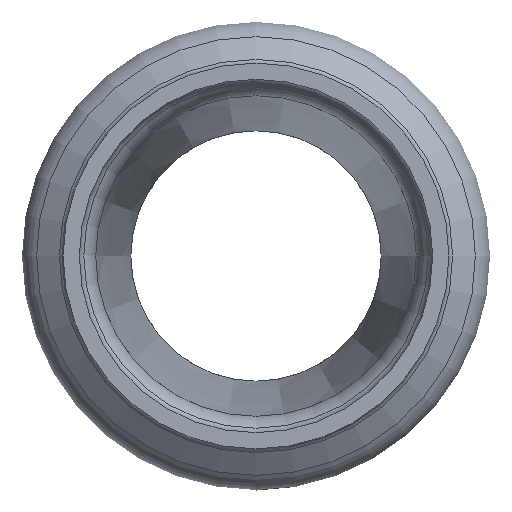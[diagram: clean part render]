
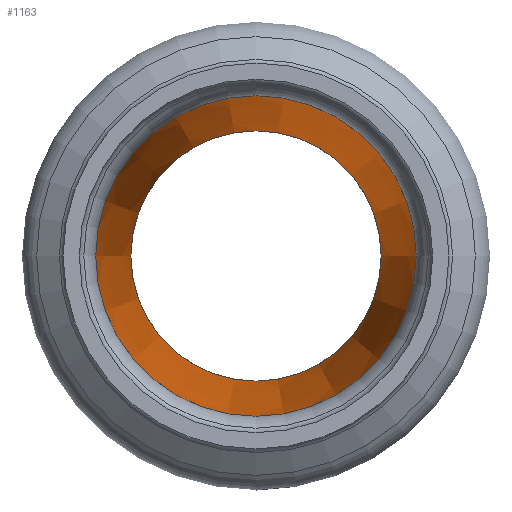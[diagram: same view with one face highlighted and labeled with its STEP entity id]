
A CAD part, left-side view. The second image highlights one B-rep face of the part: STEP entity #1163.
In plain terms, the highlighted conical face has half-angle 5.039 degrees and reference radius 24.378 mm.
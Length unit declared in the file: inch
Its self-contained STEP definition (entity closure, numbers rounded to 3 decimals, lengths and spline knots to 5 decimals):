
#76=LINE('',#2154,#98);
#98=VECTOR('',#1741,0.95975);
#112=CONICAL_SURFACE('',#1349,0.95975,0.088);
#149=FACE_OUTER_BOUND('',#198,.T.);
#198=EDGE_LOOP('',(#951,#952,#953,#954,#955,#956,#957,#958));
#327=CIRCLE('',#1345,0.84184);
#328=CIRCLE('',#1346,0.84184);
#329=CIRCLE('',#1347,0.84184);
#331=CIRCLE('',#1350,1.07766);
#332=CIRCLE('',#1351,1.07766);
#333=CIRCLE('',#1352,1.07766);
#470=VERTEX_POINT('',#2145);
#471=VERTEX_POINT('',#2146);
#472=VERTEX_POINT('',#2148);
#473=VERTEX_POINT('',#2153);
#474=VERTEX_POINT('',#2155);
#475=VERTEX_POINT('',#2157);
#638=EDGE_CURVE('',#470,#471,#327,.T.);
#639=EDGE_CURVE('',#472,#470,#328,.T.);
#640=EDGE_CURVE('',#471,#472,#329,.T.);
#642=EDGE_CURVE('',#472,#473,#76,.T.);
#643=EDGE_CURVE('',#474,#473,#331,.T.);
#644=EDGE_CURVE('',#475,#474,#332,.T.);
#645=EDGE_CURVE('',#473,#475,#333,.T.);
#951=ORIENTED_EDGE('',*,*,#638,.T.);
#952=ORIENTED_EDGE('',*,*,#640,.T.);
#953=ORIENTED_EDGE('',*,*,#642,.T.);
#954=ORIENTED_EDGE('',*,*,#643,.F.);
#955=ORIENTED_EDGE('',*,*,#644,.F.);
#956=ORIENTED_EDGE('',*,*,#645,.F.);
#957=ORIENTED_EDGE('',*,*,#642,.F.);
#958=ORIENTED_EDGE('',*,*,#639,.T.);
#1163=ADVANCED_FACE('',(#149),#112,.F.);
#1345=AXIS2_PLACEMENT_3D('',#2147,#1731,#1732);
#1346=AXIS2_PLACEMENT_3D('',#2149,#1733,#1734);
#1347=AXIS2_PLACEMENT_3D('',#2150,#1735,#1736);
#1349=AXIS2_PLACEMENT_3D('',#2152,#1739,#1740);
#1350=AXIS2_PLACEMENT_3D('',#2156,#1742,#1743);
#1351=AXIS2_PLACEMENT_3D('',#2158,#1744,#1745);
#1352=AXIS2_PLACEMENT_3D('',#2159,#1746,#1747);
#1731=DIRECTION('center_axis',(1.,0.,0.));
#1732=DIRECTION('ref_axis',(0.,1.,0.));
#1733=DIRECTION('center_axis',(1.,0.,0.));
#1734=DIRECTION('ref_axis',(0.,1.,0.));
#1735=DIRECTION('center_axis',(1.,0.,0.));
#1736=DIRECTION('ref_axis',(0.,1.,0.));
#1739=DIRECTION('center_axis',(-1.,0.,0.));
#1740=DIRECTION('ref_axis',(0.,1.,0.));
#1741=DIRECTION('',(-0.996,-0.088,0.));
#1742=DIRECTION('center_axis',(1.,0.,0.));
#1743=DIRECTION('ref_axis',(0.,1.,0.));
#1744=DIRECTION('center_axis',(1.,0.,0.));
#1745=DIRECTION('ref_axis',(0.,1.,0.));
#1746=DIRECTION('center_axis',(1.,0.,0.));
#1747=DIRECTION('ref_axis',(0.,1.,0.));
#2145=CARTESIAN_POINT('',(1.3372,0.84184,0.));
#2146=CARTESIAN_POINT('',(1.3372,0.,0.84184));
#2147=CARTESIAN_POINT('Origin',(1.3372,0.,0.));
#2148=CARTESIAN_POINT('',(1.3372,-0.84184,0.));
#2149=CARTESIAN_POINT('Origin',(1.3372,0.,0.));
#2150=CARTESIAN_POINT('Origin',(1.3372,0.,0.));
#2152=CARTESIAN_POINT('Origin',(0.,0.,0.));
#2153=CARTESIAN_POINT('',(-1.3372,-1.07766,0.));
#2154=CARTESIAN_POINT('',(0.,-0.95975,0.));
#2155=CARTESIAN_POINT('',(-1.3372,0.,1.07766));
#2156=CARTESIAN_POINT('Origin',(-1.3372,0.,
0.));
#2157=CARTESIAN_POINT('',(-1.3372,1.07766,0.));
#2158=CARTESIAN_POINT('Origin',(-1.3372,0.,
0.));
#2159=CARTESIAN_POINT('Origin',(-1.3372,0.,
0.));
